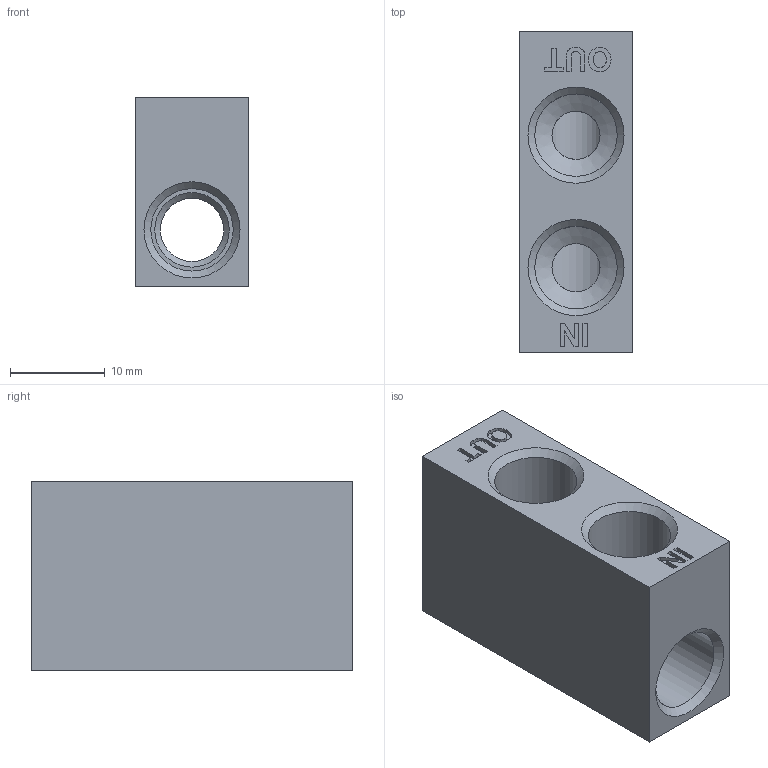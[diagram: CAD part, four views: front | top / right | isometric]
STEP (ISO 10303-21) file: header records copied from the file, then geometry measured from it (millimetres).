
FILE_DESCRIPTION(/* description */ (''),/* implementation_level */ '2;1');
FILE_NAME(/* name */ 'C:/Users/drich/Desktop/cad/Cascades/Jet Cool/Components/Head Only/BSPT/JCH-16-BSPT v1.step',/* time_stamp */ '2020-01-10T15:26:56-06:00',/* author */ (''),/* organization */ (''),/* preprocessor_version */ 'ST-DEVELOPER v18',/* originating_system */ 'Autodesk Translation Framework v8.12.0.6',/* authorisation */ '');
FILE_SCHEMA (('AUTOMOTIVE_DESIGN { 1 0 10303 214 3 1 1 }'));
Length unit declared in the file: inch
Products named in the file (1): JCH-16-BSPT
Bounding box: 11.99 x 33.99 x 19.99 mm (x, y, z)
Volume: 5557.5 mm3; surface area: 3755 mm2
Topology: 1 solids, 1 shells, 86 faces, 233 edges, 155 vertices
Faces by surface type: plane 41, bspline 32, cone 7, cylinder 6
Full cylindrical faces by diameter (mm): 5.08 x2, 6.697 x1, 8.707 x3
Entity records: 3114 total; most frequent: CARTESIAN_POINT 1101, ORIENTED_EDGE 466, DIRECTION 294, EDGE_CURVE 233, VERTEX_POINT 155, LINE 142, VECTOR 142, EDGE_LOOP 98
